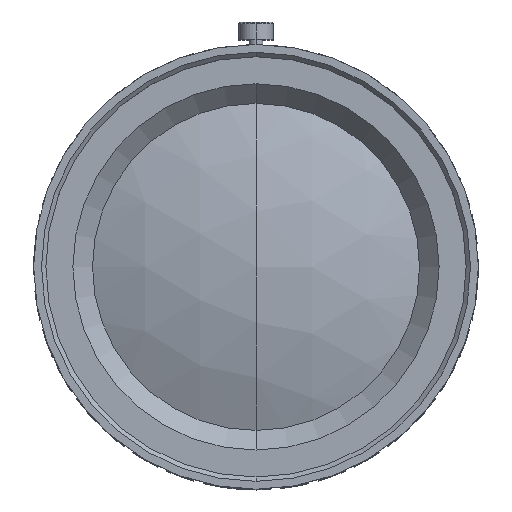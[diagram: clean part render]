
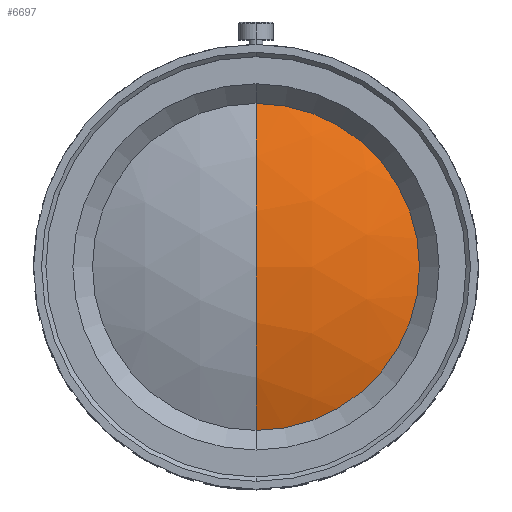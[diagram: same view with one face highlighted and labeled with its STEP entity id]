
A CAD part, top view. The second image highlights one B-rep face of the part: STEP entity #6697.
In plain terms, the highlighted spherical face has radius 48.808 mm.
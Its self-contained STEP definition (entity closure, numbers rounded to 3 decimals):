
#110 = CARTESIAN_POINT ( 'NONE',  ( 0., 0., 20.025 ) ) ;
#153 = DIRECTION ( 'NONE',  ( 1., 0., 0. ) ) ;
#2402 = DIRECTION ( 'NONE',  ( 0., 1., 0. ) ) ;
#2415 = DIRECTION ( 'NONE',  ( 0., 0., -1. ) ) ;
#2424 = CARTESIAN_POINT ( 'NONE',  ( 0., 0., 65.087 ) ) ;
#2608 = CARTESIAN_POINT ( 'NONE',  ( 0., 0., 68.832 ) ) ;
#2799 = AXIS2_PLACEMENT_3D ( 'NONE', #9021, #9200, #8945 ) ;
#3698 = VERTEX_POINT ( 'NONE', #2608 ) ;
#3718 = EDGE_CURVE ( 'NONE', #5318, #11029, #4831, .T. ) ;
#4248 = EDGE_CURVE ( 'NONE', #3698, #11029, #8139, .T. ) ;
#4304 = EDGE_LOOP ( 'NONE', ( #4405, #5851, #5435 ) ) ;
#4405 = ORIENTED_EDGE ( 'NONE', *, *, #9936, .F. ) ;
#4831 = CIRCLE ( 'NONE', #8399, 18.75 ) ;
#5318 = VERTEX_POINT ( 'NONE', #9477 ) ;
#5435 = ORIENTED_EDGE ( 'NONE', *, *, #3718, .F. ) ;
#5851 = ORIENTED_EDGE ( 'NONE', *, *, #4248, .T. ) ;
#5859 = CARTESIAN_POINT ( 'NONE',  ( 0., -18.75, 65.087 ) ) ;
#6247 = AXIS2_PLACEMENT_3D ( 'NONE', #6605, #7513, #8401 ) ;
#6605 = CARTESIAN_POINT ( 'NONE',  ( 0., 0., 20.025 ) ) ;
#6697 = ADVANCED_FACE ( 'NONE', ( #9515 ), #11482, .T. ) ;
#7513 = DIRECTION ( 'NONE',  ( -1., 0., 0. ) ) ;
#7914 = AXIS2_PLACEMENT_3D ( 'NONE', #110, #153, #8111 ) ;
#8111 = DIRECTION ( 'NONE',  ( 0., 1., 0. ) ) ;
#8139 = CIRCLE ( 'NONE', #7914, 48.808 ) ;
#8188 = CIRCLE ( 'NONE', #6247, 48.808 ) ;
#8399 = AXIS2_PLACEMENT_3D ( 'NONE', #2424, #2415, #2402 ) ;
#8401 = DIRECTION ( 'NONE',  ( 0., 0., 1. ) ) ;
#8945 = DIRECTION ( 'NONE',  ( 0., 1., 0. ) ) ;
#9021 = CARTESIAN_POINT ( 'NONE',  ( 0., 0., 20.025 ) ) ;
#9200 = DIRECTION ( 'NONE',  ( 1., 0., 0. ) ) ;
#9477 = CARTESIAN_POINT ( 'NONE',  ( 0., 18.75, 65.087 ) ) ;
#9515 = FACE_OUTER_BOUND ( 'NONE', #4304, .T. ) ;
#9936 = EDGE_CURVE ( 'NONE', #3698, #5318, #8188, .T. ) ;
#11029 = VERTEX_POINT ( 'NONE', #5859 ) ;
#11482 = SPHERICAL_SURFACE ( 'NONE', #2799, 48.808 ) ;
